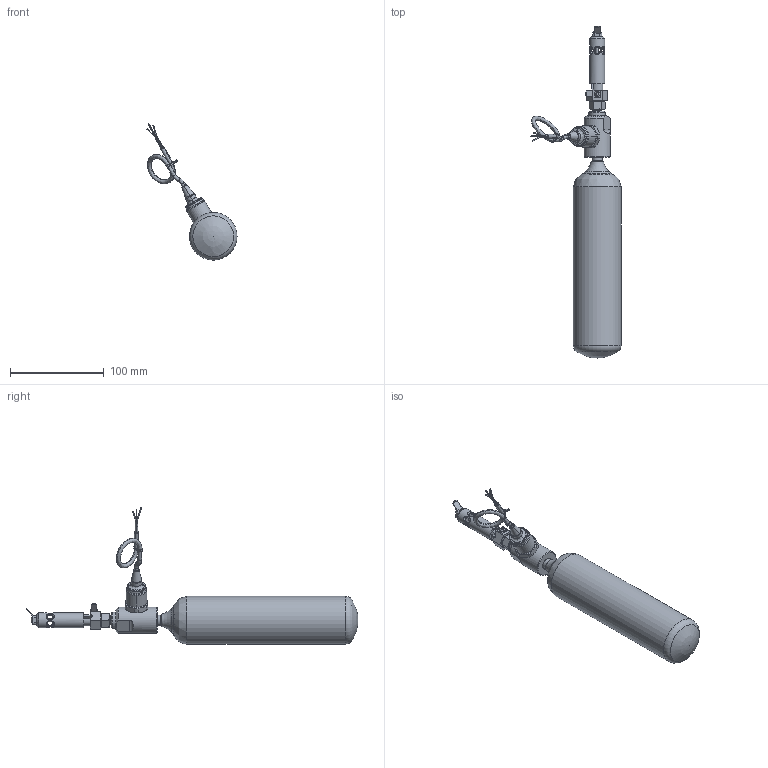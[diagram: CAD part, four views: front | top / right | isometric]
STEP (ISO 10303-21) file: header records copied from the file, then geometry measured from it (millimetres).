
FILE_DESCRIPTION(/* description */ (''),/* implementation_level */ '2;1');
FILE_NAME(/* name */ '40-057-20-31-13 - S-AMFE & R-AMFE - cylinder size 3 and pressure sensor (cable).stp',/* time_stamp */ '2025-03-26T16:19:28+01:00',/* author */ ('ASc'),/* organization */ (''),/* preprocessor_version */ 'ST-DEVELOPER v19.2',/* originating_system */ 'Autodesk Inventor 2023',/* authorisation */ '');
FILE_SCHEMA (('AUTOMOTIVE_DESIGN { 1 0 10303 214 3 1 1 }'));
Length unit declared in the file: millimetre
Products named in the file (1): 40-057-20-31-13_Vereinfachen_1
Bounding box: 96 x 353.7 x 145.1 mm (x, y, z)
Volume: 444648.2 mm3; surface area: 50939.6 mm2
Topology: 1 solids, 1 shells, 287 faces, 792 edges, 514 vertices
Faces by surface type: bspline 116, plane 106, cylinder 31, cone 29, torus 5
Full cylindrical faces by diameter (mm): 2.9 x1, 5.7 x2, 6.5 x6, 9.4 x1, 11 x1, 11.9 x1, 12 x1, 12.5 x1, 15 x1, 16 x1, 17.5 x1, 28 x1, 50.8 x1
Entity records: 17879 total; most frequent: CARTESIAN_POINT 10897, ORIENTED_EDGE 1580, DIRECTION 1016, EDGE_CURVE 790, VERTEX_POINT 514, AXIS2_PLACEMENT_3D 378, EDGE_LOOP 318, B_SPLINE_CURVE_WITH_KNOTS 294
